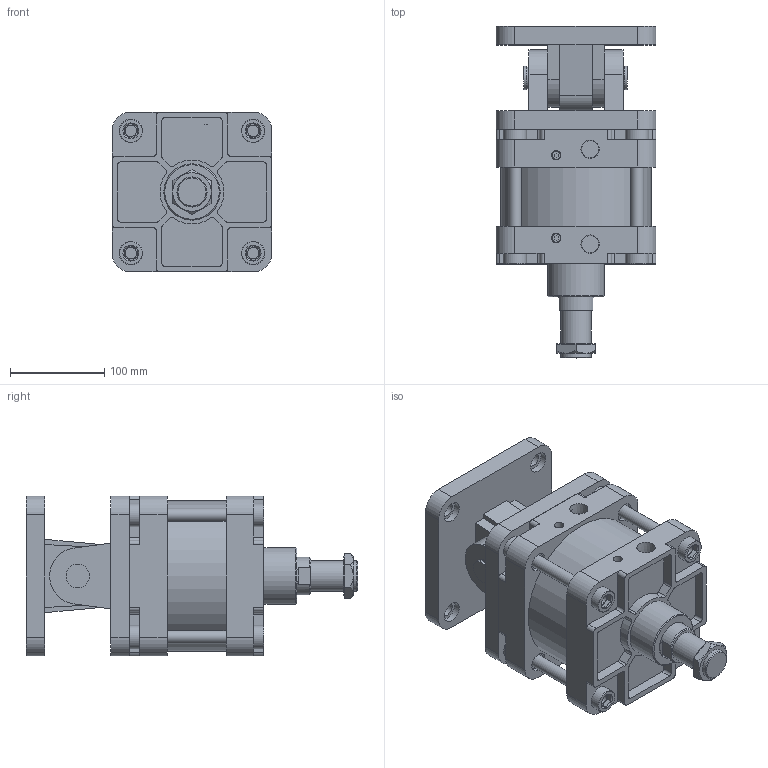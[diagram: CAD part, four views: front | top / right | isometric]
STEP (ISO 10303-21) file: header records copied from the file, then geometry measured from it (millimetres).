
FILE_DESCRIPTION(/* description */ ('Unknown'),/* implementation_level */ '2;1');
FILE_NAME(/* name */ 'WA150-0-CD',/* time_stamp */ '2026-07-17T17:00:36+08:00',/* author */ ('Unknown'),/* organization */ ('Unknown'),/* preprocessor_version */ 'ST-DEVELOPER v16.7',/* originating_system */ 'DEX',/* authorisation */ $);
FILE_SCHEMA (('CONFIG_CONTROL_DESIGN'));
Length unit declared in the file: millimetre
Products named in the file (10): WA150-0-CD; WA150_前0; WA150_後R; WA150_鋁; WA150_¤ß¶b¬¡æ´»å¡žçµ„; WA150_CBP; WA150_CB; WA150_T帽牙; M32-2.0P-10_螺; WA150_CA
Assembly tree (12 placements, depth 2):
  WA150-0-CD
    WA150_前0
    WA150_後R
    WA150_鋁
    WA150_¤ß¶b¬¡æ´»å¡žçµ„
    WA150_CBP
    WA150_CB
    WA150_T帽牙  x4
    M32-2.0P-10_螺
    WA150_CA
Bounding box: 170 x 353 x 170 mm (x, y, z)
Volume: 4821223.8 mm3; surface area: 604677.3 mm2
Topology: 12 solids, 12 shells, 472 faces, 1152 edges, 772 vertices
Faces by surface type: plane 264, cylinder 177, cone 23, torus 8
Full cylindrical faces by diameter (mm): 9 x2, 10 x2, 12.5 x8, 14 x4, 15 x8, 20 x16, 22.5 x8, 23.8 x2, 25 x14, 30 x1, 32 x1, 40 x2, 41 x1, 60 x1, 149.5 x1, 150 x3, 160 x1
Entity records: 13022 total; most frequent: CARTESIAN_POINT 1966, DIRECTION 1930, ORIENTED_EDGE 1690, EDGE_CURVE 845, AXIS2_PLACEMENT_3D 727, VERTEX_POINT 599, EDGE_LOOP 526, FACE_BOUND 526
